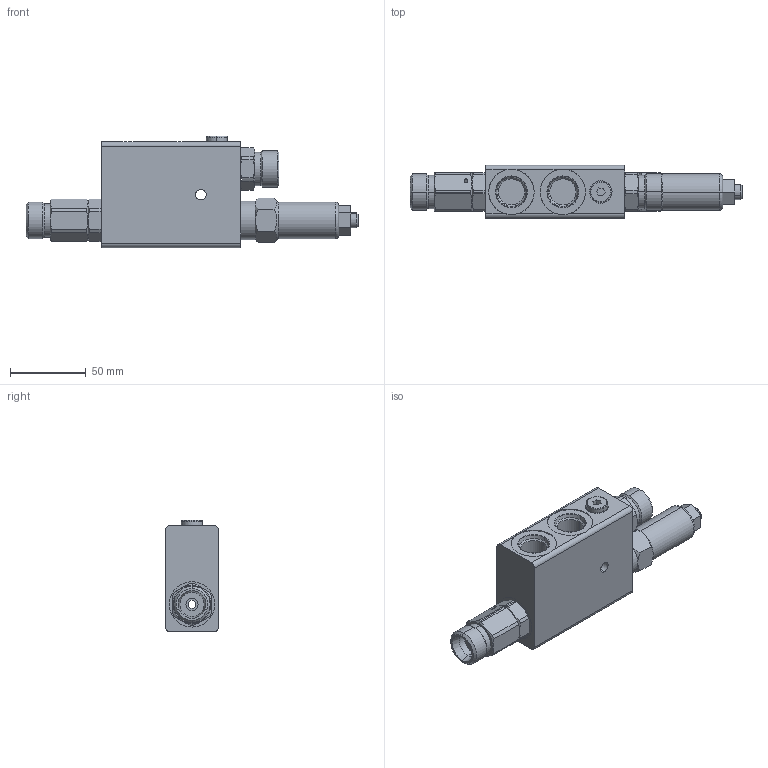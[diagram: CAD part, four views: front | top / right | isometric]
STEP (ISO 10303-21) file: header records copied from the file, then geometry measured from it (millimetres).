
FILE_DESCRIPTION (( 'STEP AP214' ), '1' );
FILE_NAME ('VCS34008.STEP', '2025-05-23T00:07:39', ( '' ), ( '' ), 'SwSTEP 2.0', 'SolidWorks 2023', '' );
FILE_SCHEMA (( 'AUTOMOTIVE_DESIGN' ));
Length unit declared in the file: millimetre
Products named in the file (1): VCS34008
Bounding box: 219.33 x 35 x 73.5 mm (x, y, z)
Surface area: 40989.3 mm2 (no closed solid volume)
Topology: 0 solids, 8 shells, 184 faces, 472 edges, 303 vertices
Faces by surface type: plane 66, cylinder 65, cone 41, torus 12
Entity records: 6161 total; most frequent: CARTESIAN_POINT 1678, DIRECTION 983, ORIENTED_EDGE 861, EDGE_CURVE 472, AXIS2_PLACEMENT_3D 394, VERTEX_POINT 303, CIRCLE 209, EDGE_LOOP 207
